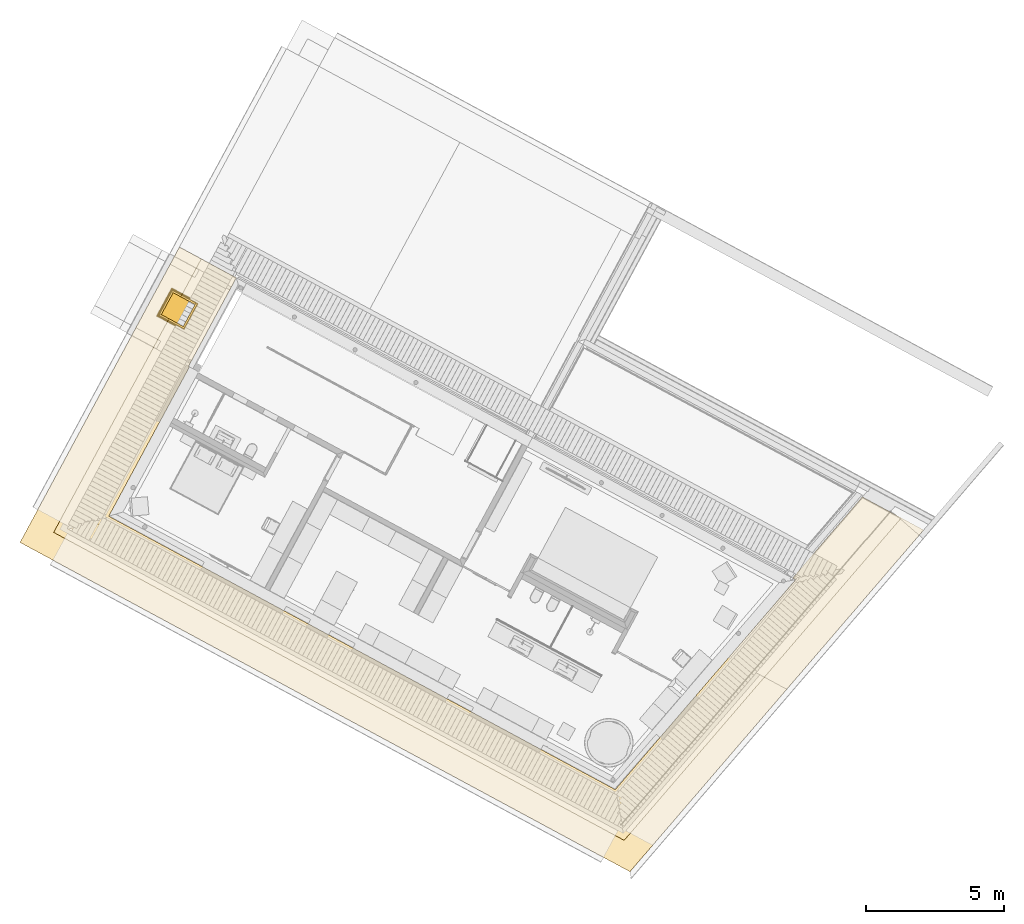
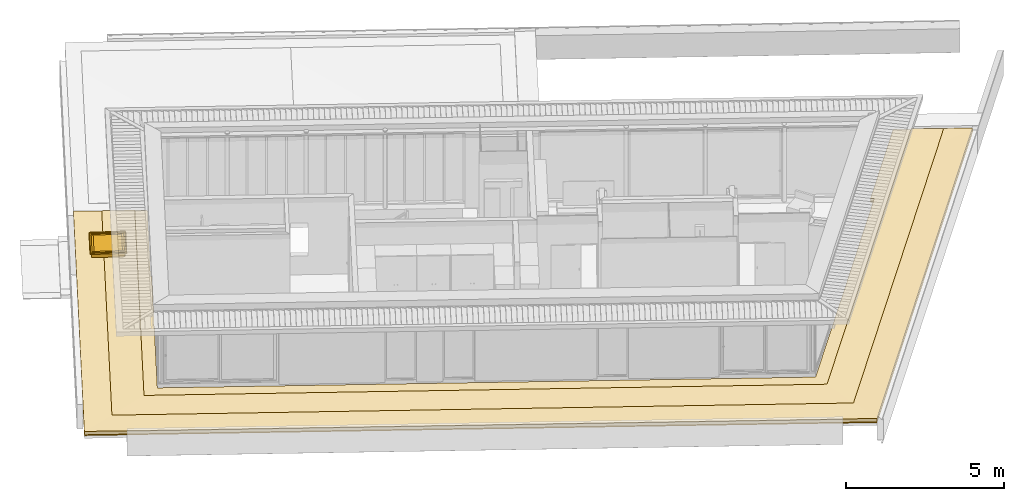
# One storey, part 12 of 41: 5 coverings, 5 windows.
"""IFC2X3 building model written with IfcOpenShell, lengths in metres."""

from ifc_helpers import new_model, entity, si_unit, converted_unit, derived_unit, money_unit, direction, frame, origin_with_axes, place, context, subcontext, project, spatial, polyline, outline, extrude, boolean, open_shell, faceted_brep, surface_model, material, type_object, element, save


model = new_model("IFC2X3")

# Units and contexts
model_context = context("Model", 3, precision=1e-05, world=origin_with_axes(), true_north=direction((0.0, 1.0)))
body_context = subcontext(model_context, "Body", "Model", "MODEL_VIEW")
ifc_project = project(units=[si_unit("LENGTHUNIT", "METRE"), si_unit("AREAUNIT", "SQUARE_METRE"), si_unit("VOLUMEUNIT", "CUBIC_METRE"), converted_unit("PLANEANGLEUNIT", "DEGREE", entity("IfcPlaneAngleMeasure", 0.0174532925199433), si_unit("PLANEANGLEUNIT", "RADIAN"), dimensions=[0, 0, 0, 0, 0, 0, 0]), money_unit("EUR"), converted_unit("TIMEUNIT", "Year", entity("IfcTimeMeasure", 31556926.0), si_unit("TIMEUNIT", "SECOND"), dimensions=[0, 0, 1, 0, 0, 0, 0]), si_unit("MASSUNIT", "GRAM", prefix="KILO"), si_unit("THERMODYNAMICTEMPERATUREUNIT", "DEGREE_CELSIUS"), si_unit("LUMINOUSINTENSITYUNIT", "LUMEN"), si_unit("ENERGYUNIT", "JOULE", prefix="MEGA"), derived_unit("THERMALCONDUCTANCEUNIT", [(si_unit("POWERUNIT", "WATT"), 1), (si_unit("LENGTHUNIT", "METRE"), -1), (si_unit("THERMODYNAMICTEMPERATUREUNIT", "KELVIN"), -1)]), derived_unit("SPECIFICHEATCAPACITYUNIT", [(si_unit("ENERGYUNIT", "JOULE"), 1), (si_unit("MASSUNIT", "GRAM", prefix="KILO"), -1), (si_unit("THERMODYNAMICTEMPERATUREUNIT", "KELVIN"), -1)]), derived_unit("MASSDENSITYUNIT", [(si_unit("MASSUNIT", "GRAM", prefix="KILO"), 1), (si_unit("VOLUMEUNIT", "CUBIC_METRE"), -1)])], contexts=[model_context])

# Site, building, storey
site_placement = place(None, frame((-3.949935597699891, 1.740105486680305, 0.0), z_axis=(0.0, 0.0, 1.0), x_axis=(0.8799804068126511, -0.475009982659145, 0.0)))
site = spatial("IfcSite", under=ifc_project, at=site_placement, Name="Gelände", CompositionType="ELEMENT")
building_placement = place(site_placement, origin_with_axes())
building = spatial("IfcBuilding", under=site, at=building_placement, Name="Gebäude", CompositionType="ELEMENT")
storey_placement = place(building_placement, frame((0.0, 0.0, 4.55), z_axis=(0.0, 0.0, 1.0), x_axis=(1.0, 0.0, 0.0)))
storey = spatial("IfcBuildingStorey", under=building, at=storey_placement, Name="Staffelgeschoss", CompositionType="ELEMENT", Elevation=4.55)

# Windows
window_style_1 = type_object("IfcWindowStyle", Name="Dachfenster Glaskuppel 03 26", ConstructionType="NOTDEFINED", OperationType="NOTDEFINED", ParameterTakesPrecedence=False, Sizeable=False)
window_1_placement = place(storey_placement, frame((3.312612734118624, 9.025417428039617, 0.0), z_axis=(0.0, 0.0, 1.0), x_axis=(0.0, -1.0, 0.0)))
element("IfcWindow", 1, at=window_1_placement, inside=storey, type_object=window_style_1, Name="Objekt-0097", ObjectType="LIGHTDOME", context=body_context, shape_type="SurfaceModel", body=[
    surface_model("IfcShellBasedSurfaceModel", [(-0.56, 0.0, 0.0), (-0.56, 1.119754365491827, 0.02345551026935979), (0.56, 1.119754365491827, 0.02345551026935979), (0.56, 0.0, 0.0), (-0.56, 0.0, 0.0), (0.56, 0.0, 0.0), (0.56, 1.119754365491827, 0.02345551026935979), (-0.56, 1.119754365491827, 0.02345551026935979)], [open_shell([[[0, 1, 2, 3], [4, 5, 6, 7]]])]),
    faceted_brep([(-0.5830000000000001, -0.02299495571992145, -0.00048167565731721), (0.5830000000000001, -0.02299495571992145, -0.00048167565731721), (0.5830000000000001, -0.02347663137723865, 0.02251328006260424), (-0.5830000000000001, -0.02347663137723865, 0.02251328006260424), (-0.5830000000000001, 1.142749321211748, 0.023937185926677), (0.5830000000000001, 1.142749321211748, 0.023937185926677), (-0.514, 0.04598991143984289, 0.0009633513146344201), (0.514, 0.04598991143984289, 0.0009633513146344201), (0.514, 1.073764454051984, 0.02249215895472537), (-0.514, 1.073764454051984, 0.02249215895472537), (0.5830000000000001, 1.142267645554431, 0.04693214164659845), (-0.5830000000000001, 1.142267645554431, 0.04693214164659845), (-0.514, 0.04550823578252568, 0.02395830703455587), (-0.514, 1.073282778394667, 0.04548711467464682), (0.514, 1.073282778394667, 0.04548711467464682), (0.514, 0.04550823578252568, 0.02395830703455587)], [[[0, 1, 2, 3]], [[0, 4, 5, 1], [6, 7, 8, 9]], [[1, 5, 10, 2]], [[3, 2, 10, 11], [12, 13, 14, 15]], [[4, 0, 3, 11]], [[5, 4, 11, 10]], [[7, 6, 12, 15]], [[8, 7, 15, 14]], [[9, 8, 14, 13]], [[6, 9, 13, 12]]]),
    faceted_brep([(-0.5830000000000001, -0.02347663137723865, 0.02251328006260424), (0.5830000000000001, -0.02347663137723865, 0.02251328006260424), (0.5830000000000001, -0.02395830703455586, 0.04550823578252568), (-0.5830000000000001, -0.02395830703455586, 0.04550823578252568), (-0.5830000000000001, 1.142267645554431, 0.04693214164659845), (0.5830000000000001, 1.142267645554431, 0.04693214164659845), (-0.56, -0.00048167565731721, 0.02299495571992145), (0.56, -0.00048167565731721, 0.02299495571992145), (0.56, 1.11927268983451, 0.04645046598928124), (-0.56, 1.11927268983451, 0.04645046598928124), (0.5830000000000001, 1.141785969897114, 0.06992709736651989), (-0.5830000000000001, 1.141785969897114, 0.06992709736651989), (-0.56, -0.0009633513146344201, 0.04598991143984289), (-0.56, 1.118791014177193, 0.06944542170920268), (0.56, 1.118791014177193, 0.06944542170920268), (0.56, -0.0009633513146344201, 0.04598991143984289)], [[[0, 1, 2, 3]], [[0, 4, 5, 1], [6, 7, 8, 9]], [[1, 5, 10, 2]], [[3, 2, 10, 11], [12, 13, 14, 15]], [[4, 0, 3, 11]], [[5, 4, 11, 10]], [[7, 6, 12, 15]], [[8, 7, 15, 14]], [[9, 8, 14, 13]], [[6, 9, 13, 12]]]),
    surface_model("IfcShellBasedSurfaceModel", [(-0.07502577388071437, 0.4843861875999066, 0.03315148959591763), (-0.07502577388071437, 0.6344048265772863, 0.03629393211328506), (-0.1914563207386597, 0.7508098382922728, 0.03873226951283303), (-0.1914563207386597, 0.36798117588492, 0.03071315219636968), (0.07502577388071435, 0.4843861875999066, 0.03315148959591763), (0.07502577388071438, 0.6344048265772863, 0.03629393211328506), (0.1914563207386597, 0.7508098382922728, 0.038732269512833), (-0.3027982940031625, 0.8621273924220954, 0.04106403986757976), (-0.3027982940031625, 0.2566636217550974, 0.02838138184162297), (0.1914563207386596, 0.36798117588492, 0.03071315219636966), (0.3027982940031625, 0.8621273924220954, 0.04106403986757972), (-0.4041855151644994, 0.9634923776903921, 0.04318733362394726), (-0.4041855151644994, 0.1552986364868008, 0.02625808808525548), (0.3027982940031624, 0.2566636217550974, 0.02838138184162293), (0.4041855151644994, 0.9634923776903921, 0.04318733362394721), (-0.4911868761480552, 1.050474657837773, 0.04500935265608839), (-0.4911868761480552, 0.06831635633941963, 0.02443606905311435), (0.4041855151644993, 0.1552986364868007, 0.02625808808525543), (0.4911868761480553, 1.050474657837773, 0.04500935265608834), (-0.56, 1.11927268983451, 0.04645046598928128), (-0.56, -0.0004816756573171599, 0.02299495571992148), (0.4911868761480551, 0.06831635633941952, 0.02443606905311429), (0.5600000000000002, 1.11927268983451, 0.04645046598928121), (0.5599999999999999, -0.0004816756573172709, 0.02299495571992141)], [open_shell([[[0, 1, 2, 3]], [[1, 0, 4, 5]], [[1, 5, 6, 2]], [[3, 2, 7, 8]], [[4, 0, 3, 9]], [[5, 4, 9, 6]], [[2, 6, 10, 7]], [[8, 7, 11, 12]], [[9, 3, 8, 13]], [[6, 9, 13, 10]], [[7, 10, 14, 11]], [[12, 11, 15, 16]], [[13, 8, 12, 17]], [[10, 13, 17, 14]], [[11, 14, 18, 15]], [[16, 15, 19, 20]], [[17, 12, 16, 21]], [[14, 17, 21, 18]], [[15, 18, 22, 19]], [[21, 16, 20, 23]], [[18, 21, 23, 22]]])]),
])
ifc_material_1 = material(Name="_SIWH - Beton, Stahlbeton")
window_style_2 = type_object("IfcWindowStyle", Name="_SIWH - Beton, Stahlbeton 85", ConstructionType="NOTDEFINED", OperationType="NOTDEFINED", ParameterTakesPrecedence=False, Sizeable=False)
window_2_placement = place(storey_placement, frame((3.422489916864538, 9.475417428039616, -0.4500000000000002), z_axis=(0.0, 0.0, 1.0), x_axis=(0.0, -1.0, 0.0)))
element("IfcWindow", 2, at=window_2_placement, inside=storey, type_object=window_style_2, material=ifc_material_1, Name="A-Wand064", ObjectType="LIGHTDOME", context=body_context, shape_type="CSG", body=[
    boolean("DIFFERENCE", extrude(outline(polyline([(-0.08500000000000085, -0.08499999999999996), (0.9849999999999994, -0.08499999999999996), (0.9849999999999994, 0.0), (-0.08500000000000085, 0.0), (-0.08500000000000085, -0.08499999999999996)])), origin_with_axes(), (0.0, 0.0, 1.0), 0.5849999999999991), faceted_brep([(-0.08500000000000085, -0.08499999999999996, 0.5849999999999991), (-0.08500000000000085, -0.08499999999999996, 0.0), (0.9849999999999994, -0.08499999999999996, 0.0), (0.9849999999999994, -0.08499999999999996, 0.5849999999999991), (0.8999999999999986, -0.08499999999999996, 0.1500000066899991), (0.0, -0.08499999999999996, 0.1500000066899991), (0.0, -0.08499999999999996, 0.4505211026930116), (0.8999999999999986, -0.08499999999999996, 0.4505211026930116), (-0.08500000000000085, 0.0, 0.5849999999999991), (-0.08500000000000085, 0.0, 0.0), (0.9849999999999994, 0.0, 0.0), (0.9849999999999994, 0.0, 0.5849999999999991), (0.8999999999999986, 0.0, 0.1500000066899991), (0.0, 0.0, 0.1500000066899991), (0.0, 0.0, 0.4753066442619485), (0.0, -0.0003829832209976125, 0.4752986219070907), (0.0, -0.04156082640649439, 0.4744360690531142), (0.0, -0.06388726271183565, 0.4739683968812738), (0.0, -0.06388726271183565, 0.450963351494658), (0.8999999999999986, -0.06388726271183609, 0.450963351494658), (0.8999999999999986, 0.0, 0.4753066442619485), (0.8999999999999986, -0.06388726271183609, 0.4739683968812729), (0.8999999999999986, -0.04156082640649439, 0.4744360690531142), (0.8999999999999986, -0.0003829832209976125, 0.4752986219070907), (0.8996169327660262, 0.0, 0.4753066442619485), (0.0003830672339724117, 0.0, 0.4753066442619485)], [[[0, 1, 2, 3], [4, 5, 6, 7]], [[8, 9, 1, 0]], [[2, 1, 9, 10]], [[3, 2, 10, 11]], [[8, 0, 3, 11]], [[12, 13, 5, 4]], [[13, 14, 15, 16, 17, 18, 6, 5]], [[7, 6, 18, 19]], [[20, 12, 4, 7, 19, 21, 22, 23]], [[11, 10, 9, 8], [24, 25, 14, 13, 12, 20]], [[14, 25, 15]], [[25, 24, 23, 22, 16, 15]], [[16, 22, 21, 17]], [[17, 21, 19, 18]], [[24, 20, 23]]])),
])
window_3_placement = place(storey_placement, frame((4.322489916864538, 8.575417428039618, -0.4500000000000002), z_axis=(0.0, 0.0, 1.0), x_axis=(0.0, 1.0, 0.0)))
element("IfcWindow", 3, at=window_3_placement, inside=storey, type_object=window_style_2, material=ifc_material_1, Name="A-Wand062", ObjectType="LIGHTDOME", context=body_context, shape_type="CSG", body=[
    boolean("DIFFERENCE", extrude(outline(polyline([(-0.08500000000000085, -0.08499999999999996), (0.9849999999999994, -0.08499999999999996), (0.9849999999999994, 0.0), (-0.08500000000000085, 0.0), (-0.08500000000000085, -0.08499999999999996)])), origin_with_axes(), (0.0, 0.0, 1.0), 0.5849999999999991), faceted_brep([(0.0, -0.08499999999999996, 0.1500000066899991), (0.0, -0.08499999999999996, 0.4729344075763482), (0.9849999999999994, -0.08499999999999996, 0.4729344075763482), (0.9849999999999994, -0.08499999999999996, 0.5849999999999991), (-0.08500000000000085, -0.08499999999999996, 0.5849999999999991), (-0.08500000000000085, -0.08499999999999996, 0.0), (0.9849999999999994, -0.08499999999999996, 0.0), (0.9849999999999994, -0.08499999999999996, 0.1500000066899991), (0.0, 0.0, 0.1500000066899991), (0.0, 0.0, 0.4941589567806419), (0.0, -0.04059747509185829, 0.4950093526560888), (0.0, -0.06340559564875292, 0.4954871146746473), (0.0, -0.063887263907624, 0.4724921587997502), (0.9849999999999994, 0.0, 0.4711539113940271), (0.9640000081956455, -0.063887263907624, 0.4724921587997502), (0.9639999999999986, -0.06340559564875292, 0.4724820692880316), (0.9640000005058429, 0.0, 0.4711539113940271), (0.9849999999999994, 0.0, 0.5849999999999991), (-0.08500000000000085, 0.0, 0.5849999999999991), (-0.08500000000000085, 0.0, 0.0), (0.9849999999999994, 0.0, 0.0), (0.9849999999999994, 0.0, 0.1500000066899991), (0.9640000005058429, 0.0, 0.4941589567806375), (0.9411868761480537, 0.0, 0.4941589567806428), (0.9005804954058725, 0.0, 0.4941589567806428), (0.9411868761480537, -0.04059747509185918, 0.4950093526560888), (0.9639999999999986, -0.06340559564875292, 0.495487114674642)], [[[0, 1, 2, 3, 4, 5, 6, 7]], [[1, 0, 8, 9, 10, 11, 12]], [[13, 2, 1, 12, 14, 15, 16]], [[2, 13, 17, 3]], [[18, 4, 3, 17]], [[18, 19, 5, 4]], [[6, 5, 19, 20]], [[21, 7, 6, 20]], [[0, 7, 21, 8]], [[8, 21, 20, 19, 18, 17, 13, 16, 22, 23, 24, 9]], [[9, 24, 25, 10]], [[10, 25, 26, 11]], [[11, 26, 14, 12]], [[15, 14, 26]], [[22, 16, 15, 26]], [[23, 22, 26, 25]], [[24, 23, 25]]])),
])
window_4_placement = place(storey_placement, frame((3.422489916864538, 8.575417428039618, -0.4500000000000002), z_axis=(0.0, 0.0, 1.0), x_axis=(1.0, 0.0, 0.0)))
element("IfcWindow", 4, at=window_4_placement, inside=storey, type_object=window_style_2, material=ifc_material_1, Name="A-Wand061", ObjectType="LIGHTDOME", context=body_context, shape_type="CSG", body=[
    boolean("DIFFERENCE", boolean("DIFFERENCE", extrude(outline(polyline([(-0.08499999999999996, -0.08500000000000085), (0.9850000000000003, -0.08500000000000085), (0.9850000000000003, 0.0), (-0.08499999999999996, 0.0), (-0.08499999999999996, -0.08500000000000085)])), origin_with_axes(), (0.0, 0.0, 1.0), 0.5849999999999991), faceted_brep([(-0.08499999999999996, 0.0, 0.1500000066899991), (0.9850000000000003, 0.0, 0.1500000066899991), (0.9850000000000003, 0.0, 0.0), (-0.08499999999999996, 0.0, 0.0), (0.9850000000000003, -0.08499999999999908, 0.1500000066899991), (-0.08499999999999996, -0.08500000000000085, 0.1500000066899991), (0.9850000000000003, -0.08500000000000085, 0.0), (-0.08499999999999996, -0.08500000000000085, 0.0)], [[[0, 1, 2, 3]], [[4, 1, 0, 5]], [[1, 4, 6, 2]], [[6, 7, 3, 2]], [[5, 0, 3, 7]], [[4, 5, 7, 6]]])), faceted_brep([(0.9850000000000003, -0.08499999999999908, 0.4729344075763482), (0.9850000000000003, 0.0, 0.4729344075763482), (0.9850000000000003, 0.0, 0.5849999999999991), (0.9850000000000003, -0.08500000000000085, 0.5849999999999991), (0.9638872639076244, 0.0, 0.4724921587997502), (-0.08499999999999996, -0.08500000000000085, 0.4505211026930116), (-0.08499999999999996, 0.0, 0.4505211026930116), (-0.06388726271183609, 0.0, 0.450963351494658), (-0.06388726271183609, -0.06400000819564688, 0.450963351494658), (0.9634055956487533, -0.06400000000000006, 0.4724820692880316), (0.9638872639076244, -0.06400000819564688, 0.4724921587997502), (-0.08499999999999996, 0.0, 0.5849999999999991), (0.9634055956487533, 0.0, 0.4954871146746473), (0.9405974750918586, 0.0, 0.4950093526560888), (0.899419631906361, 0.0, 0.4941467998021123), (-0.0003829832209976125, 0.0, 0.4752986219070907), (-0.04156082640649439, 0.0, 0.4744360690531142), (-0.06388726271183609, 0.0, 0.4739683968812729), (-0.08499999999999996, -0.08500000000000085, 0.5849999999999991), (-0.06388726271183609, -0.06351821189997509, 0.4739683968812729), (-0.06388726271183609, -0.06400000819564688, 0.4739683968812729), (0.9634055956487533, -0.06400000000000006, 0.4954871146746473), (0.9405974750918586, -0.04118687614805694, 0.4950093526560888), (-0.04156082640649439, -0.04118687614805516, 0.4744360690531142)], [[[0, 1, 2, 3]], [[4, 1, 0, 5, 6, 7, 8, 9, 10]], [[7, 6, 11, 2, 1, 4, 12, 13, 14, 15, 16, 17]], [[11, 18, 3, 2]], [[5, 0, 3, 18]], [[6, 5, 18, 11]], [[7, 17, 19, 20, 8]], [[9, 8, 20, 21]], [[10, 9, 21]], [[12, 4, 10, 21]], [[13, 12, 21, 22]], [[14, 13, 22]], [[15, 14, 22, 23]], [[16, 15, 23]], [[17, 16, 23, 19]], [[20, 19, 23, 22, 21]]])),
])
window_5_placement = place(storey_placement, frame((4.322489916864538, 9.475417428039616, -0.4500000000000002), z_axis=(0.0, 0.0, 1.0), x_axis=(-1.0, 0.0, 0.0)))
element("IfcWindow", 5, at=window_5_placement, inside=storey, type_object=window_style_2, material=ifc_material_1, Name="A-Wand063", ObjectType="LIGHTDOME", context=body_context, shape_type="CSG", body=[
    boolean("DIFFERENCE", extrude(outline(polyline([(-0.08499999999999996, -0.08500000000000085), (0.9850000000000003, -0.08500000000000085), (0.9850000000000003, 0.0), (-0.08499999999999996, 0.0), (-0.08499999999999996, -0.08500000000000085)])), origin_with_axes(), (0.0, 0.0, 1.0), 0.5849999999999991), faceted_brep([(0.9850000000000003, -0.08500000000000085, 0.1500000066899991), (0.0, -0.08500000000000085, 0.1500000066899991), (0.0, -0.08500000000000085, 0.4711539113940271), (0.9850000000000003, -0.08500000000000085, 0.4505211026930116), (0.9850000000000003, -0.08500000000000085, 0.5849999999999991), (-0.08499999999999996, -0.08500000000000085, 0.5849999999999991), (-0.08499999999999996, -0.08500000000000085, 0.0), (0.9850000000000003, -0.08500000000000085, 0.0), (0.9850000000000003, 0.0, 0.1500000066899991), (0.0, 0.0, 0.1500000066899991), (0.0, 0.0, 0.4941589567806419), (0.0, -0.0005804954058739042, 0.4941589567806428), (0.0, -0.04118687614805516, 0.4941589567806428), (0.0, -0.06400000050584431, 0.4941589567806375), (0.0, -0.06400000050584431, 0.4711539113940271), (0.963887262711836, -0.06400000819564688, 0.450963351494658), (0.963887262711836, 0.0, 0.450963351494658), (0.9850000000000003, 0.0, 0.4505211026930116), (0.9850000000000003, 0.0, 0.5849999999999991), (-0.08499999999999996, 0.0, 0.5849999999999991), (-0.08499999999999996, 0.0, 0.0), (0.9850000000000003, 0.0, 0.0), (0.963887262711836, 0.0, 0.4739683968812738), (0.9415608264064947, 0.0, 0.4744360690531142), (0.900382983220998, 0.0, 0.4752986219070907), (0.0005803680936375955, 0.0, 0.4941467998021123), (0.9415608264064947, -0.04118687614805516, 0.4744360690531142), (0.963887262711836, -0.06351821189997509, 0.4739683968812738), (0.963887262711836, -0.06400000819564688, 0.4739683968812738)], [[[0, 1, 2, 3, 4, 5, 6, 7]], [[1, 0, 8, 9]], [[2, 1, 9, 10, 11, 12, 13, 14]], [[3, 2, 14, 15, 16, 17]], [[3, 17, 18, 4]], [[19, 5, 4, 18]], [[19, 20, 6, 5]], [[7, 6, 20, 21]], [[8, 0, 7, 21]], [[9, 8, 21, 20, 19, 18, 17, 16, 22, 23, 24, 25, 10]], [[10, 25, 11]], [[25, 24, 26, 12, 11]], [[12, 26, 27, 28, 13]], [[13, 28, 15, 14]], [[22, 16, 15, 28, 27]], [[23, 22, 27, 26]], [[24, 23, 26]]])),
])

# Coverings
ifc_material_2 = material(Name="Dämmung, hart Mineralwolle")
covering_type_1 = type_object("IfcCoveringType", Name="Dämmung, hart Mineralwolle", PredefinedType="INSULATION")
covering_1_placement = place(storey_placement, frame((3.73748226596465, -0.2200118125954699, -0.299999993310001), z_axis=(0.0, 0.0, 1.0), x_axis=(1.0, 0.0, 0.0)))
element("IfcCovering", 6, at=covering_1_placement, inside=storey, type_object=covering_type_1, material=ifc_material_2, Name="Freifläche-006", PredefinedType="INSULATION", context=body_context, shape_type="Brep", body=[
    faceted_brep([(1.479998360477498, 7.613070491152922, 0.0), (1.479998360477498, 7.613070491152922, 0.04899999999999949), (1.479998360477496, 1.464999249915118, 0.04899999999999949), (1.479998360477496, 1.464999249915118, 0.0), (1.439999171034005, 7.613070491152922, 0.04821623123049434), (1.439999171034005, 7.613070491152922, 0.0), (1.439999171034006, 11.23348856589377, 0.04821623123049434), (0.0, 10.35781242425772, 0.01999999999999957), (0.0, 9.695429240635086, 0.01999999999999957), (0.5850076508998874, 9.695429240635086, 0.03146300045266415), (0.5850076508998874, 8.795429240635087, 0.03146300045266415), (0.0, 8.795429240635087, 0.01999999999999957), (0.0, 0.0, 0.01999999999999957), (22.32357255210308, 1.464999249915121, 0.04899999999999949), (22.32357255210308, 1.464999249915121, 0.0), (24.46240552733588, 11.25781242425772, 0.0), (24.33973615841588, 11.25781242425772, 0.0), (25.16646568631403, 15.04305791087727, 0.0), (26.7682182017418, 15.04305791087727, 0.0), (23.48268752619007, 0.0, 0.0), (0.0, 0.0, 0.0), (0.0, 8.795429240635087, 0.0), (0.5850076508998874, 8.795429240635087, 0.0), (0.5850076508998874, 9.695429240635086, 0.0), (0.0, 9.695429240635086, 0.0), (0.0, 11.25781242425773, 0.0), (1.439999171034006, 11.25781242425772, 0.0), (1.439999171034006, 11.25781242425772, 0.0487027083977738), (0.0, 11.25781242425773, 0.03799999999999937), (23.48268752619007, 0.0, 0.01999999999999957), (24.46240552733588, 11.25781242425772, 0.04899999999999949), (24.33973615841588, 11.25781242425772, 0.04899999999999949), (25.16646568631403, 15.04305791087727, 0.04899999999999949), (26.7682182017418, 15.04305791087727, 0.03799999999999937), (26.5761776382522, 14.16378524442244, 0.02000000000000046)], [[[0, 1, 2, 3]], [[4, 1, 0, 5]], [[4, 6, 7, 8, 9, 10, 11, 12, 2, 1]], [[13, 14, 3, 2]], [[5, 0, 3, 14, 15, 16, 17, 18, 19, 20, 21, 22, 23, 24, 25, 26]], [[26, 27, 6, 4, 5]], [[6, 27, 28, 7]], [[25, 24, 8, 7, 28]], [[23, 9, 8, 24]], [[22, 10, 9, 23]], [[21, 11, 10, 22]], [[12, 11, 21, 20]], [[13, 2, 12, 29]], [[30, 15, 14, 13]], [[31, 16, 15, 30]], [[32, 17, 16, 31]], [[33, 18, 17, 32]], [[29, 19, 18, 33, 34]], [[12, 20, 19, 29]], [[27, 26, 25, 28]], [[30, 13, 29, 34]], [[30, 32, 31]], [[32, 34, 33]], [[32, 30, 34]]]),
])
covering_2_placement = place(storey_placement, frame((2.837482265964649, -1.12001181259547, -0.299999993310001), z_axis=(0.0, 0.0, 1.0), x_axis=(1.0, 0.0, 0.0)))
element("IfcCovering", 7, at=covering_2_placement, inside=storey, type_object=covering_type_1, material=ifc_material_2, Name="Freifläche-006", PredefinedType="INSULATION", context=body_context, shape_type="Brep", body=[
    faceted_brep([(0.5850076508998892, 9.695429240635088, 0.02629984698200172), (0.5850076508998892, 10.59542924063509, 0.02629984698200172), (0.8999999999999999, 10.59542924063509, 0.01999999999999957), (0.8999999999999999, 11.25781242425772, 0.01999999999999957), (0.0, 12.15781242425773, 0.03799999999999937), (0.0, 0.0, 0.03799999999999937), (0.8999999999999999, 0.9000000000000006, 0.01999999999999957), (0.8999999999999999, 9.695429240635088, 0.01999999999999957), (0.5850076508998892, 9.695429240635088, 0.0), (0.5850076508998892, 10.59542924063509, 0.0), (0.8999999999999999, 10.59542924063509, 0.0), (0.8999999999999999, 12.15781242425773, 0.0), (0.8999999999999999, 12.15781242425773, 0.03799999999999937), (0.0, 12.15781242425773, 0.0), (0.0, 0.0, 0.0), (25.10733588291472, 0.0, 0.03799999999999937), (24.38268752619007, 0.9000000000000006, 0.01999999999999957), (0.8999999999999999, 9.695429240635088, 0.0), (0.8999999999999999, 0.9000000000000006, 0.0), (24.38268752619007, 0.9000000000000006, 0.0), (27.6682182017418, 15.94305791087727, 0.0), (28.58943414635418, 15.94305791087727, 0.0), (25.10733588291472, 0.0, 0.0), (28.58943414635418, 15.94305791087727, 0.03799999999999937), (27.4761776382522, 15.06378524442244, 0.01999999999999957), (27.6682182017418, 15.94305791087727, 0.03799999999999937)], [[[0, 1, 2, 3, 4, 5, 6, 7]], [[1, 0, 8, 9]], [[10, 2, 1, 9]], [[2, 10, 11, 12, 3]], [[4, 3, 12]], [[13, 14, 5, 4]], [[6, 5, 15, 16]], [[17, 7, 6, 18]], [[0, 7, 17, 8]], [[8, 17, 18, 19, 20, 21, 22, 14, 13, 11, 10, 9]], [[11, 13, 4, 12]], [[14, 22, 15, 5]], [[23, 24, 16, 15]], [[19, 18, 6, 16]], [[20, 19, 16, 24, 25]], [[21, 20, 25, 23]], [[22, 21, 23, 15]], [[23, 25, 24]]]),
])
ifc_material_3 = material(Name="_SIWH - Gründach")
covering_type_2 = type_object("IfcCoveringType", Name="_SIWH - Gründach", PredefinedType="INSULATION")
covering_3_placement = place(storey_placement, frame((2.837482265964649, -1.12001181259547, -0.2799999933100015), z_axis=(0.0, 0.0, 1.0), x_axis=(1.0, 0.0, 0.0)))
element("IfcCovering", 8, at=covering_3_placement, inside=storey, type_object=covering_type_2, material=ifc_material_3, Name="Freifläche-006", PredefinedType="INSULATION", context=body_context, shape_type="Brep", body=[
    faceted_brep([(0.5850076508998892, 9.695429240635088, 0.136299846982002), (0.5850076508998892, 10.59542924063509, 0.136299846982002), (0.8999999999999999, 10.59542924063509, 0.1299999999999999), (0.8999999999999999, 11.25781242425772, 0.1299999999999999), (0.0, 12.15781242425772, 0.1479999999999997), (0.0, 0.0, 0.1479999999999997), (0.8999999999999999, 0.9000000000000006, 0.1299999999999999), (0.8999999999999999, 9.695429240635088, 0.1299999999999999), (0.5850076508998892, 9.695429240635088, 0.006299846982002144), (0.5850076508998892, 10.59542924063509, 0.006299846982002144), (0.8999999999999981, 10.59542924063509, 0.0), (0.8999999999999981, 11.25781242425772, 0.0), (0.8999999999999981, 12.15781242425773, 0.01800000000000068), (0.8999999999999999, 12.15781242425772, 0.1479999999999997), (0.0, 12.15781242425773, 0.01800000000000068), (0.0, 0.0, 0.01799999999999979), (25.10733588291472, 0.0, 0.1479999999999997), (24.38268752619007, 0.9000000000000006, 0.1299999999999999), (0.8999999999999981, 9.695429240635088, 0.0), (0.8999999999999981, 0.9000000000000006, 0.0), (25.10733588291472, 0.0, 0.01799999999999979), (28.58943414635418, 15.94305791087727, 0.1479999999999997), (27.4761776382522, 15.06378524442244, 0.1299999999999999), (24.38268752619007, 0.9000000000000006, 0.0), (28.58943414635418, 15.94305791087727, 0.01799999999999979), (27.6682182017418, 15.94305791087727, 0.1479999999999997), (27.6682182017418, 15.94305791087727, 0.01799999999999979), (27.4761776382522, 15.06378524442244, 0.0)], [[[0, 1, 2, 3, 4, 5, 6, 7]], [[1, 0, 8, 9]], [[10, 2, 1, 9]], [[2, 10, 11, 12, 13, 3]], [[3, 13, 4]], [[5, 4, 14, 15]], [[16, 17, 6, 5]], [[18, 7, 6, 19]], [[0, 7, 18, 8]], [[8, 18, 19, 15, 14, 11, 10, 9]], [[12, 11, 14]], [[4, 13, 12, 14]], [[16, 5, 15, 20]], [[17, 16, 21, 22]], [[6, 17, 23, 19]], [[19, 23, 20, 15]], [[21, 16, 20, 24]], [[25, 22, 21]], [[25, 26, 27, 23, 17, 22]], [[23, 27, 24, 20]], [[25, 21, 24, 26]], [[24, 27, 26]]]),
])
covering_4_placement = place(storey_placement, frame((3.73748226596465, -0.2200118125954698, -0.2799999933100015), z_axis=(0.0, 0.0, 1.0), x_axis=(1.0, 0.0, 0.0)))
element("IfcCovering", 9, at=covering_4_placement, inside=storey, type_object=covering_type_2, material=ifc_material_3, Name="Freifläche-006", PredefinedType="INSULATION", context=body_context, shape_type="Brep", body=[
    faceted_brep([(0.5850076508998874, 9.695429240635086, 0.1414630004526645), (0.5850076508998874, 8.795429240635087, 0.1414630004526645), (0.0, 8.795429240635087, 0.1299999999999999), (0.0, 0.0, 0.1299999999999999), (1.044998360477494, 1.034407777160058, 0.1504763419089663), (1.044998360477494, 10.99328510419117, 0.1504763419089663), (0.0, 10.35781242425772, 0.1299999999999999), (0.0, 9.695429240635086, 0.1299999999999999), (0.5850076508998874, 8.795429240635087, 0.01146300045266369), (0.5850076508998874, 9.695429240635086, 0.01146300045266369), (0.0, 8.795429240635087, 0.0), (0.0, 0.0, 0.0), (23.48268752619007, 0.0, 0.1299999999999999), (22.66774679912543, 1.029999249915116, 0.1503890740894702), (1.044998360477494, 1.029999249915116, 0.1503890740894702), (1.044998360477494, 1.034407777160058, 0.02047634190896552), (1.044998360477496, 10.99328510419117, 0.02047634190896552), (1.044998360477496, 11.25781242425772, 0.02576688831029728), (1.044998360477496, 11.25781242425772, 0.1557668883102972), (1.044998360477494, 1.029999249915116, 0.02038907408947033), (0.0, 11.25781242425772, 0.1479999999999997), (0.0, 10.35781242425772, 0.0), (0.0, 9.695429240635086, 0.0), (0.0, 11.25781242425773, 0.01799999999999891), (23.48268752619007, 0.0, 0.0), (26.5761776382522, 14.16378524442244, 0.1300000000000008), (25.09872288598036, 12.13260916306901, 0.1502700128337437), (22.67381925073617, 1.029999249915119, 0.1502700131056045), (22.67381925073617, 1.029999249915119, 0.0202700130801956), (22.66774679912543, 1.029999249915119, 0.02038907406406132), (26.7682182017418, 15.04305791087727, 0.1479999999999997), (26.5761776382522, 14.16378524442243, 3.165192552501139e-10), (26.7682182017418, 15.04305791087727, 0.01799999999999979), (25.66629876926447, 14.73129949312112, 0.1487176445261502), (25.73438943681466, 15.04305791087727, 0.1550997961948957), (25.73438943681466, 15.04305791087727, 0.02509979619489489), (25.66629876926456, 14.73129949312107, 0.01871764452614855), (25.09872288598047, 12.13260916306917, 0.02027001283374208)], [[[0, 1, 2, 3, 4, 5, 6, 7]], [[8, 1, 0, 9]], [[10, 2, 1, 8]], [[3, 2, 10, 11]], [[12, 13, 14, 4, 3]], [[15, 16, 17, 18, 5, 4, 14, 19]], [[20, 6, 5, 18]], [[21, 22, 7, 6, 20, 23]], [[9, 0, 7, 22]], [[8, 9, 22, 21, 16, 15, 11, 10]], [[24, 12, 3, 11]], [[25, 26, 27, 13, 12]], [[19, 14, 13, 27, 28, 29]], [[21, 23, 17, 16]], [[23, 20, 18, 17]], [[11, 15, 19, 29, 24]], [[30, 25, 12, 24, 31, 32]], [[26, 25, 33]], [[27, 26, 33, 34, 35, 36, 37, 28]], [[24, 29, 28, 37, 31]], [[25, 30, 34, 33]], [[32, 31, 36, 35]], [[30, 32, 35, 34]], [[36, 31, 37]]]),
])
ifc_material_4 = material(Name="_SIWH - Schotter, fein")
covering_type_3 = type_object("IfcCoveringType", Name="_SIWH - Schotter, fein  150", PredefinedType="ROOFING")
covering_5_placement = place(storey_placement, frame((4.782480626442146, 11.03780061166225, -0.1499999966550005), z_axis=(0.0, 0.0, 1.0), x_axis=(1.0, 0.0, 0.0)))
element("IfcCovering", 10, at=covering_5_placement, inside=storey, type_object=covering_type_3, material=ifc_material_4, Name="Decke053", PredefinedType="ROOFING", context=body_context, shape_type="CSG", body=[
    boolean("DIFFERENCE", extrude(outline(polyline([(0.0, 0.0), (0.0, -10.22781317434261), (21.62882089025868, -10.2278131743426), (24.68939107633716, 3.785245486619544), (24.12146732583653, 3.785245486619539), (23.29473779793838, 0.0), (23.41740716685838, 0.0), (21.27857419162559, -9.792813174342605), (0.4349999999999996, -9.792813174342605), (0.4350000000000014, 0.0), (0.0, 0.0)])), frame((0.0, 0.0, -0.1499999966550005), z_axis=(0.0, 0.0, 1.0), x_axis=(1.0, 0.0, 0.0)), (0.0, 0.0, 1.0), 0.1499999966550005), faceted_brep([(24.12146732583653, 3.785245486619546, -0.100999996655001), (24.68939107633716, 3.785245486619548, -0.1049002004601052), (24.68939107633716, 3.785245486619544, -0.1499999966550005), (24.12146732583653, 3.785245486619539, -0.1499999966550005), (24.62130040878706, 3.473487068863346, -0.1112823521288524), (24.05372452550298, 0.8747967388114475, -0.1097299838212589), (21.62882089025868, -10.2278131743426, -0.1097299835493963), (21.62882089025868, -10.2278131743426, -0.1499999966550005), (0.0, -10.22781317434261, -0.1499999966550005), (0.0, 0.0, -0.1499999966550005), (0.4350000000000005, 0.0, -0.1499999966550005), (0.4350000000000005, -9.792813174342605, -0.1499999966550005), (21.27857419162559, -9.792813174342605, -0.1499999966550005), (23.41740716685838, 0.0, -0.1499999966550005), (23.29473779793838, 0.0, -0.1499999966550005), (23.29473779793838, 0.0, -0.100999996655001), (23.41740716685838, 0.0, -0.100999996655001), (21.27857419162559, -9.792813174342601, -0.100999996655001), (21.62274843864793, -10.2278131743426, -0.1096109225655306), (0.0, -10.22781317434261, -0.1096109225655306), (0.0, -0.2645273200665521, -0.1095236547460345), (0.0, 0.0, -0.1042331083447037), (0.0, -10.22340464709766, -0.1095236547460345), (0.3950008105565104, 0.0, -0.1012972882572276), (0.3950008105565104, 0.0, 0.0), (0.4350000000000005, 0.0, 0.0), (0.4350000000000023, -3.644741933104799, -0.100999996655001), (0.4350000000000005, -9.792813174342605, -0.100999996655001), (0.4350000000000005, -3.644741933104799, 0.0), (0.3950008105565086, -0.02432385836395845, -0.1017837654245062), (0.3950008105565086, -3.644741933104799, -0.1017837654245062), (0.3950008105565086, -3.644741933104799, 0.0)], [[[0, 1, 2, 3]], [[4, 1, 0]], [[5, 6, 7, 2, 1, 4]], [[8, 9, 10, 11, 12, 13, 14, 3, 2, 7]], [[15, 0, 3, 14]], [[5, 4, 0, 16]], [[6, 5, 16, 17, 18]], [[18, 19, 8, 7, 6]], [[20, 21, 9, 8, 19, 22]], [[23, 24, 25, 10, 9, 21]], [[26, 27, 11, 10, 25, 28]], [[27, 17, 12, 11]], [[17, 16, 13, 12]], [[16, 15, 14, 13]], [[0, 15, 16]], [[19, 18, 17, 27, 22]], [[23, 21, 20, 29]], [[27, 26, 30, 29, 20, 22]], [[31, 24, 23, 29, 30]], [[31, 28, 25, 24]], [[26, 28, 31, 30]]])),
])

save(model, "model.ifc")
